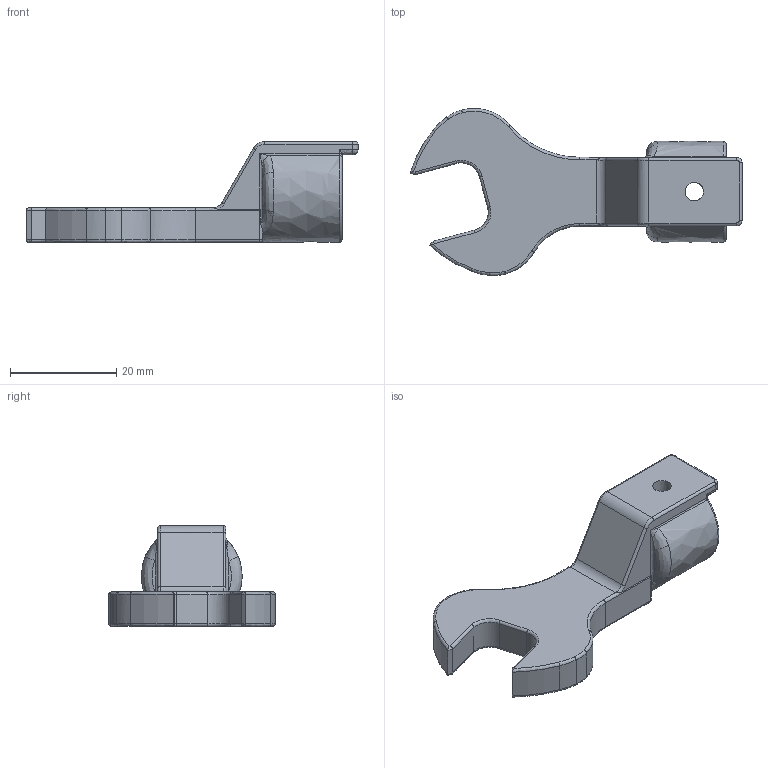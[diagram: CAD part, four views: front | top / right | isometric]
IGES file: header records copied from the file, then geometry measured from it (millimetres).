
Global section: file name: SH12DX13; native system: Autodesk Inventor 2016; preprocessor: unknown; author: Q532; date: 20151029.190307; units: millimetre
Bounding box: 62.61 x 31.51 x 19 mm (x, y, z)
Volume: 8092.5 mm3; surface area: 4371.1 mm2
Topology: 1 solids, 1 shells, 125 faces, 304 edges, 176 vertices
Faces by surface type: bspline 125
